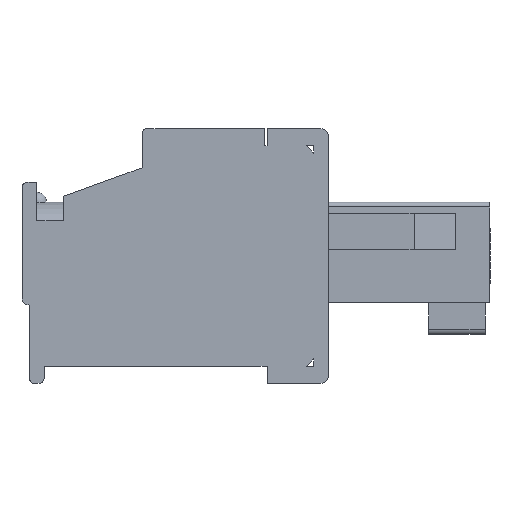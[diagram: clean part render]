
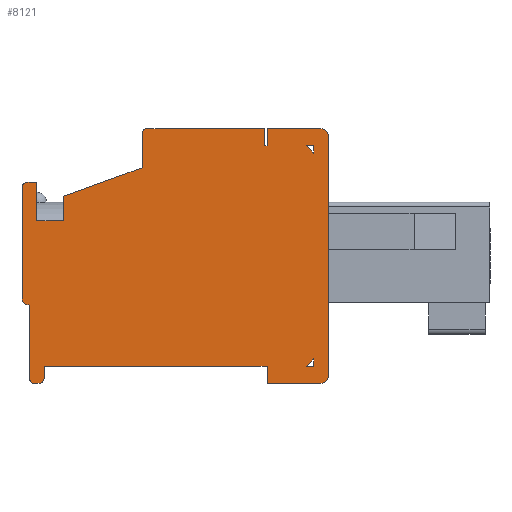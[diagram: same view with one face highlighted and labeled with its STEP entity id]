
A CAD part, left-side view. The second image highlights one B-rep face of the part: STEP entity #8121.
In plain terms, the highlighted planar face has unit normal (-1, 0, 0).
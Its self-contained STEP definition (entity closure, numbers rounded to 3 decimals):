
#843=DIRECTION('',(0.,-1.,0.));
#844=VECTOR('',#843,0.1);
#845=CARTESIAN_POINT('',(4.8,9.2,-0.7));
#846=LINE('',#845,#844);
#847=DIRECTION('',(0.,0.,1.));
#848=VECTOR('',#847,0.7);
#849=CARTESIAN_POINT('',(4.8,9.1,-0.7));
#850=LINE('',#849,#848);
#851=DIRECTION('',(0.,-1.,0.));
#852=VECTOR('',#851,2.2);
#853=CARTESIAN_POINT('',(4.8,9.1,0.));
#854=LINE('',#853,#852);
#855=CARTESIAN_POINT('',(4.8,6.9,-0.3));
#856=DIRECTION('',(1.,0.,0.));
#857=DIRECTION('',(0.,0.,1.));
#858=AXIS2_PLACEMENT_3D('',#855,#856,#857);
#860=DIRECTION('',(0.,0.,-1.));
#861=VECTOR('',#860,9.8);
#862=CARTESIAN_POINT('',(4.8,6.6,-0.3));
#863=LINE('',#862,#861);
#864=CARTESIAN_POINT('',(4.8,6.9,-10.1));
#865=DIRECTION('',(1.,0.,0.));
#866=DIRECTION('',(0.,-1.,0.));
#867=AXIS2_PLACEMENT_3D('',#864,#865,#866);
#869=DIRECTION('',(0.,1.,0.));
#870=VECTOR('',#869,2.2);
#871=CARTESIAN_POINT('',(4.8,6.9,-10.4));
#872=LINE('',#871,#870);
#873=DIRECTION('',(0.,0.,1.));
#874=VECTOR('',#873,0.7);
#875=CARTESIAN_POINT('',(4.8,9.1,-10.4));
#876=LINE('',#875,#874);
#877=DIRECTION('',(0.,1.,0.));
#878=VECTOR('',#877,9.1);
#879=CARTESIAN_POINT('',(4.8,9.1,-9.7));
#880=LINE('',#879,#878);
#881=CARTESIAN_POINT('',(4.8,18.4,-10.2));
#882=DIRECTION('',(1.,0.,0.));
#883=DIRECTION('',(0.,-1.,0.));
#884=AXIS2_PLACEMENT_3D('',#881,#882,#883);
#886=CARTESIAN_POINT('',(4.8,18.6,-10.2));
#887=DIRECTION('',(1.,0.,0.));
#888=DIRECTION('',(0.,0.,-1.));
#889=AXIS2_PLACEMENT_3D('',#886,#887,#888);
#891=CARTESIAN_POINT('',(4.8,18.8,-6.9));
#892=DIRECTION('',(1.,0.,0.));
#893=DIRECTION('',(0.,0.,-1.));
#894=AXIS2_PLACEMENT_3D('',#891,#892,#893);
#896=CARTESIAN_POINT('',(4.8,18.9,-2.4));
#897=DIRECTION('',(1.,0.,0.));
#898=DIRECTION('',(0.,1.,0.));
#899=AXIS2_PLACEMENT_3D('',#896,#897,#898);
#901=DIRECTION('',(0.,0.,-1.));
#902=VECTOR('',#901,1.565);
#903=CARTESIAN_POINT('',(4.8,18.5,-2.2));
#904=LINE('',#903,#902);
#905=DIRECTION('',(0.,-1.,0.));
#906=VECTOR('',#905,1.1);
#907=CARTESIAN_POINT('',(4.8,18.5,-3.765));
#908=LINE('',#907,#906);
#909=DIRECTION('',(0.,0.,1.));
#910=VECTOR('',#909,1.);
#911=CARTESIAN_POINT('',(4.8,17.4,-3.765));
#912=LINE('',#911,#910);
#913=DIRECTION('',(0.,-0.94,0.342));
#914=VECTOR('',#913,3.405);
#915=CARTESIAN_POINT('',(4.8,17.4,-2.765));
#916=LINE('',#915,#914);
#917=CARTESIAN_POINT('',(4.8,14.,-0.2));
#918=DIRECTION('',(1.,0.,0.));
#919=DIRECTION('',(0.,1.,0.));
#920=AXIS2_PLACEMENT_3D('',#917,#918,#919);
#922=DIRECTION('',(0.,0.707,-0.707));
#923=VECTOR('',#922,0.424);
#924=CARTESIAN_POINT('',(4.8,7.2,-9.4));
#925=LINE('',#924,#923);
#926=DIRECTION('',(0.,0.,1.));
#927=VECTOR('',#926,0.3);
#928=CARTESIAN_POINT('',(4.8,7.2,-9.7));
#929=LINE('',#928,#927);
#930=DIRECTION('',(0.,-0.707,-0.707));
#931=VECTOR('',#930,0.424);
#932=CARTESIAN_POINT('',(4.8,7.5,-0.7));
#933=LINE('',#932,#931);
#934=DIRECTION('',(0.,0.,1.));
#935=VECTOR('',#934,0.3);
#936=CARTESIAN_POINT('',(4.8,7.2,-1.));
#937=LINE('',#936,#935);
#938=DIRECTION('',(0.,1.,0.));
#939=VECTOR('',#938,0.3);
#940=CARTESIAN_POINT('',(4.8,7.2,-0.7));
#941=LINE('',#940,#939);
#1682=DIRECTION('',(0.,1.,0.));
#1683=VECTOR('',#1682,0.3);
#1684=CARTESIAN_POINT('',(4.8,7.2,-9.7));
#1685=LINE('',#1684,#1683);
#1793=DIRECTION('',(0.,0.,1.));
#1794=VECTOR('',#1793,0.5);
#1795=CARTESIAN_POINT('',(4.8,18.2,-10.2));
#1796=LINE('',#1795,#1794);
#1805=DIRECTION('',(0.,-1.,0.));
#1806=VECTOR('',#1805,0.2);
#1807=CARTESIAN_POINT('',(4.8,18.6,-10.4));
#1808=LINE('',#1807,#1806);
#1817=DIRECTION('',(0.,0.,-1.));
#1818=VECTOR('',#1817,3.);
#1819=CARTESIAN_POINT('',(4.8,18.8,-7.2));
#1820=LINE('',#1819,#1818);
#1829=DIRECTION('',(0.,0.,-1.));
#1830=VECTOR('',#1829,4.5);
#1831=CARTESIAN_POINT('',(4.8,19.1,-2.4));
#1832=LINE('',#1831,#1830);
#1875=DIRECTION('',(0.,1.,0.));
#1876=VECTOR('',#1875,0.4);
#1877=CARTESIAN_POINT('',(4.8,18.5,-2.2));
#1878=LINE('',#1877,#1876);
#2215=DIRECTION('',(0.,0.,-1.));
#2216=VECTOR('',#2215,1.4);
#2217=CARTESIAN_POINT('',(4.8,14.2,-0.2));
#2218=LINE('',#2217,#2216);
#2267=DIRECTION('',(0.,1.,0.));
#2268=VECTOR('',#2267,4.8);
#2269=CARTESIAN_POINT('',(4.8,9.2,0.));
#2270=LINE('',#2269,#2268);
#2444=DIRECTION('',(0.,0.,1.));
#2445=VECTOR('',#2444,0.7);
#2446=CARTESIAN_POINT('',(4.8,9.2,-0.7));
#2447=LINE('',#2446,#2445);
#5631=CARTESIAN_POINT('',(4.8,7.5,-9.7));
#5632=VERTEX_POINT('',#5631);
#5633=CARTESIAN_POINT('',(4.8,7.2,-9.4));
#5634=VERTEX_POINT('',#5633);
#5699=CARTESIAN_POINT('',(4.8,9.1,-9.7));
#5700=VERTEX_POINT('',#5699);
#5701=CARTESIAN_POINT('',(4.8,18.2,-9.7));
#5702=VERTEX_POINT('',#5701);
#5703=CARTESIAN_POINT('',(4.8,9.1,-10.4));
#5704=VERTEX_POINT('',#5703);
#5715=CARTESIAN_POINT('',(4.8,6.9,-10.4));
#5716=VERTEX_POINT('',#5715);
#5749=CARTESIAN_POINT('',(4.8,6.6,-10.1));
#5750=VERTEX_POINT('',#5749);
#5751=CARTESIAN_POINT('',(4.8,6.6,-0.3));
#5752=VERTEX_POINT('',#5751);
#5831=CARTESIAN_POINT('',(4.8,9.1,0.));
#5832=VERTEX_POINT('',#5831);
#5853=CARTESIAN_POINT('',(4.8,6.9,0.));
#5854=VERTEX_POINT('',#5853);
#5855=CARTESIAN_POINT('',(4.8,9.1,-0.7));
#5856=VERTEX_POINT('',#5855);
#5857=CARTESIAN_POINT('',(4.8,9.2,-0.7));
#5858=VERTEX_POINT('',#5857);
#5871=CARTESIAN_POINT('',(4.8,18.2,-10.2));
#5872=VERTEX_POINT('',#5871);
#5873=CARTESIAN_POINT('',(4.8,18.4,-10.4));
#5874=VERTEX_POINT('',#5873);
#5875=CARTESIAN_POINT('',(4.8,18.6,-10.4));
#5876=VERTEX_POINT('',#5875);
#5877=CARTESIAN_POINT('',(4.8,18.8,-10.2));
#5878=VERTEX_POINT('',#5877);
#5879=CARTESIAN_POINT('',(4.8,18.8,-7.2));
#5880=VERTEX_POINT('',#5879);
#5881=CARTESIAN_POINT('',(4.8,19.1,-6.9));
#5882=VERTEX_POINT('',#5881);
#5883=CARTESIAN_POINT('',(4.8,19.1,-2.4));
#5884=VERTEX_POINT('',#5883);
#5885=CARTESIAN_POINT('',(4.8,18.9,-2.2));
#5886=VERTEX_POINT('',#5885);
#5887=CARTESIAN_POINT('',(4.8,18.5,-2.2));
#5888=VERTEX_POINT('',#5887);
#5889=CARTESIAN_POINT('',(4.8,18.5,-3.765));
#5890=VERTEX_POINT('',#5889);
#5891=CARTESIAN_POINT('',(4.8,17.4,-3.765));
#5892=VERTEX_POINT('',#5891);
#5893=CARTESIAN_POINT('',(4.8,17.4,-2.765));
#5894=VERTEX_POINT('',#5893);
#5895=CARTESIAN_POINT('',(4.8,14.2,-1.6));
#5896=VERTEX_POINT('',#5895);
#5897=CARTESIAN_POINT('',(4.8,14.2,-0.2));
#5898=VERTEX_POINT('',#5897);
#5899=CARTESIAN_POINT('',(4.8,14.,0.));
#5900=VERTEX_POINT('',#5899);
#5901=CARTESIAN_POINT('',(4.8,9.2,0.));
#5902=VERTEX_POINT('',#5901);
#5903=CARTESIAN_POINT('',(4.8,7.2,-9.7));
#5904=VERTEX_POINT('',#5903);
#5905=CARTESIAN_POINT('',(4.8,7.5,-0.7));
#5906=CARTESIAN_POINT('',(4.8,7.2,-1.));
#5907=VERTEX_POINT('',#5905);
#5908=VERTEX_POINT('',#5906);
#5909=CARTESIAN_POINT('',(4.8,7.2,-0.7));
#5910=VERTEX_POINT('',#5909);
#8050=CARTESIAN_POINT('',(4.8,7.2,0.));
#8051=DIRECTION('',(1.,0.,0.));
#8052=DIRECTION('',(0.,-1.,0.));
#8053=AXIS2_PLACEMENT_3D('',#8050,#8051,#8052);
#8054=PLANE('',#8053);
#8055=ORIENTED_EDGE('',*,*,#8029,.T.);
#8056=ORIENTED_EDGE('',*,*,#8018,.T.);
#8057=ORIENTED_EDGE('',*,*,#8003,.T.);
#8059=ORIENTED_EDGE('',*,*,#8058,.T.);
#8060=ORIENTED_EDGE('',*,*,#6977,.T.);
#8062=ORIENTED_EDGE('',*,*,#8061,.T.);
#8064=ORIENTED_EDGE('',*,*,#8063,.T.);
#8066=ORIENTED_EDGE('',*,*,#8065,.T.);
#8068=ORIENTED_EDGE('',*,*,#8067,.T.);
#8070=ORIENTED_EDGE('',*,*,#8069,.F.);
#8072=ORIENTED_EDGE('',*,*,#8071,.T.);
#8074=ORIENTED_EDGE('',*,*,#8073,.F.);
#8076=ORIENTED_EDGE('',*,*,#8075,.T.);
#8078=ORIENTED_EDGE('',*,*,#8077,.F.);
#8080=ORIENTED_EDGE('',*,*,#8079,.T.);
#8082=ORIENTED_EDGE('',*,*,#8081,.F.);
#8084=ORIENTED_EDGE('',*,*,#8083,.T.);
#8086=ORIENTED_EDGE('',*,*,#8085,.F.);
#8088=ORIENTED_EDGE('',*,*,#8087,.T.);
#8090=ORIENTED_EDGE('',*,*,#8089,.T.);
#8092=ORIENTED_EDGE('',*,*,#8091,.T.);
#8094=ORIENTED_EDGE('',*,*,#8093,.T.);
#8096=ORIENTED_EDGE('',*,*,#8095,.F.);
#8098=ORIENTED_EDGE('',*,*,#8097,.T.);
#8100=ORIENTED_EDGE('',*,*,#8099,.F.);
#8102=ORIENTED_EDGE('',*,*,#8101,.F.);
#8103=EDGE_LOOP('',(#8055,#8056,#8057,#8059,#8060,#8062,#8064,#8066,#8068,#8070,
#8072,#8074,#8076,#8078,#8080,#8082,#8084,#8086,#8088,#8090,#8092,#8094,#8096,
#8098,#8100,#8102));
#8104=FACE_OUTER_BOUND('',#8103,.F.);
#8106=ORIENTED_EDGE('',*,*,#8105,.T.);
#8108=ORIENTED_EDGE('',*,*,#8107,.F.);
#8110=ORIENTED_EDGE('',*,*,#8109,.T.);
#8111=EDGE_LOOP('',(#8106,#8108,#8110));
#8112=FACE_BOUND('',#8111,.F.);
#8114=ORIENTED_EDGE('',*,*,#8113,.T.);
#8116=ORIENTED_EDGE('',*,*,#8115,.T.);
#8118=ORIENTED_EDGE('',*,*,#8117,.T.);
#8119=EDGE_LOOP('',(#8114,#8116,#8118));
#8120=FACE_BOUND('',#8119,.F.);
#8121=ADVANCED_FACE('',(#8104,#8112,#8120),#8054,.F.);
#859=CIRCLE('',#858,0.3);
#868=CIRCLE('',#867,0.3);
#885=CIRCLE('',#884,0.2);
#890=CIRCLE('',#889,0.2);
#895=CIRCLE('',#894,0.3);
#900=CIRCLE('',#899,0.2);
#921=CIRCLE('',#920,0.2);
#6977=EDGE_CURVE('',#5752,#5750,#863,.T.);
#8003=EDGE_CURVE('',#5832,#5854,#854,.T.);
#8018=EDGE_CURVE('',#5856,#5832,#850,.T.);
#8029=EDGE_CURVE('',#5858,#5856,#846,.T.);
#8058=EDGE_CURVE('',#5854,#5752,#859,.T.);
#8061=EDGE_CURVE('',#5750,#5716,#868,.T.);
#8063=EDGE_CURVE('',#5716,#5704,#872,.T.);
#8065=EDGE_CURVE('',#5704,#5700,#876,.T.);
#8067=EDGE_CURVE('',#5700,#5702,#880,.T.);
#8069=EDGE_CURVE('',#5872,#5702,#1796,.T.);
#8071=EDGE_CURVE('',#5872,#5874,#885,.T.);
#8073=EDGE_CURVE('',#5876,#5874,#1808,.T.);
#8075=EDGE_CURVE('',#5876,#5878,#890,.T.);
#8077=EDGE_CURVE('',#5880,#5878,#1820,.T.);
#8079=EDGE_CURVE('',#5880,#5882,#895,.T.);
#8081=EDGE_CURVE('',#5884,#5882,#1832,.T.);
#8083=EDGE_CURVE('',#5884,#5886,#900,.T.);
#8085=EDGE_CURVE('',#5888,#5886,#1878,.T.);
#8087=EDGE_CURVE('',#5888,#5890,#904,.T.);
#8089=EDGE_CURVE('',#5890,#5892,#908,.T.);
#8091=EDGE_CURVE('',#5892,#5894,#912,.T.);
#8093=EDGE_CURVE('',#5894,#5896,#916,.T.);
#8095=EDGE_CURVE('',#5898,#5896,#2218,.T.);
#8097=EDGE_CURVE('',#5898,#5900,#921,.T.);
#8099=EDGE_CURVE('',#5902,#5900,#2270,.T.);
#8101=EDGE_CURVE('',#5858,#5902,#2447,.T.);
#8105=EDGE_CURVE('',#5634,#5632,#925,.T.);
#8107=EDGE_CURVE('',#5904,#5632,#1685,.T.);
#8109=EDGE_CURVE('',#5904,#5634,#929,.T.);
#8113=EDGE_CURVE('',#5907,#5908,#933,.T.);
#8115=EDGE_CURVE('',#5908,#5910,#937,.T.);
#8117=EDGE_CURVE('',#5910,#5907,#941,.T.);
